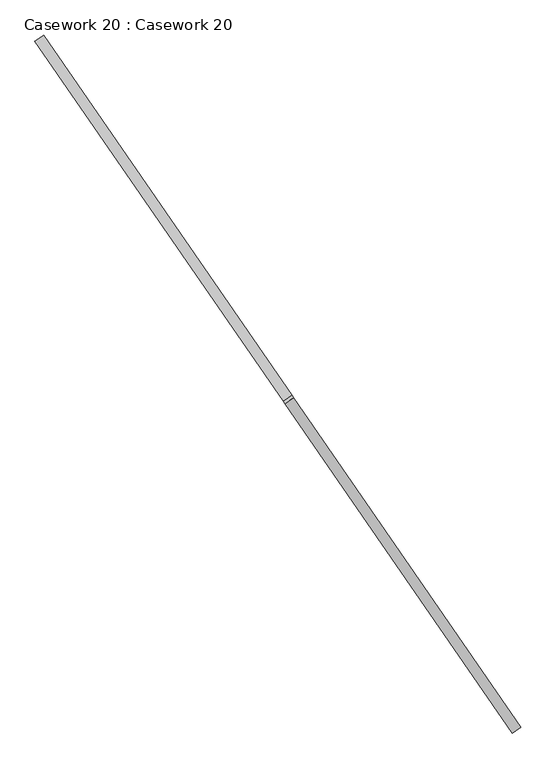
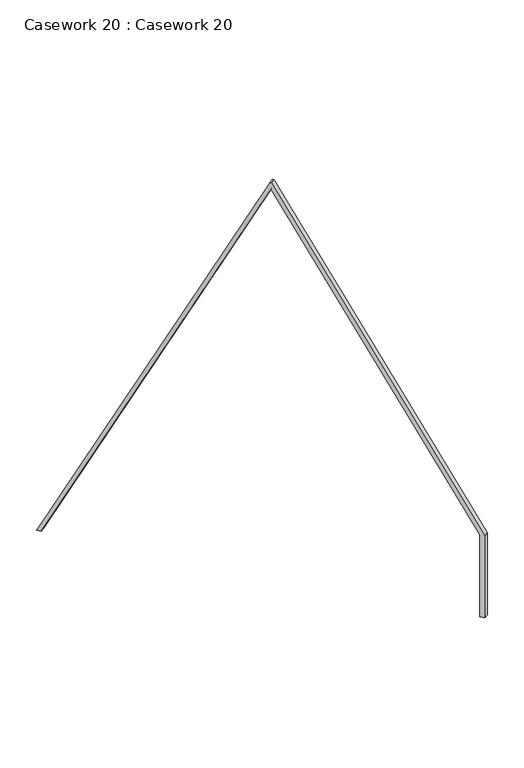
"""IFC4 building model written with IfcOpenShell, lengths in millimetres: furniture geometry, Casework 20 : Casework 20."""

from ifc_helpers import new_model, si_unit, frame, origin, place, context, project, spatial, polyline, outline, extrude, source, transform, mapped, element, save


def casework_20_casework_20_86b0d857(model_context):
    return source(origin(), model_context, "Body", "SweptSolid", [
        extrude(outline(polyline([(6845.025563, 0.0), (6858.5302211, -20.5869355), (2405.1237754, -7894.6840661), (2360.3484367, -7826.4270984), (6744.3754383, -75.0002177), (-7.1014448, -75.0002177), (-1346.7591035, -953.7914599), (-1395.086495, -880.1196286), (-53.4038013, 0.0), (6845.025563, 0.0)])), frame((1261.4941047, 11387.4101634, 4849.2479709), z_axis=(0.8229702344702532, 0.5680844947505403, 0.0), x_axis=(-0.3115942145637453, 0.4513989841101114, 0.8361507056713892)), (0.0, 0.0, 1.0), 100.0),
    ])


if __name__ == "__main__":
    model = new_model("IFC4")
    model_context = context("Model", 3, world=origin())
    ifc_project = project(units=[si_unit("LENGTHUNIT", "METRE", prefix="MILLI")], contexts=[model_context])
    site = spatial("IfcSite", under=ifc_project)
    building = spatial("IfcBuilding", under=site)
    placement = place(None, origin())
    casework_20_casework_20_shape = casework_20_casework_20_86b0d857(model_context)
    element("IfcFurniture", 1, ObjectType="Casework 20 : Casework 20", at=placement, inside=building, context=model_context, shape_type="MappedRepresentation", body=[
        mapped(casework_20_casework_20_shape, transform((0.0, 0.0, 0.0), x_axis=(1.0, 0.0, 0.0), y_axis=(0.0, 1.0, 0.0), z_axis=(0.0, 0.0, 1.0))),
    ])
    save(model, "model.ifc")
